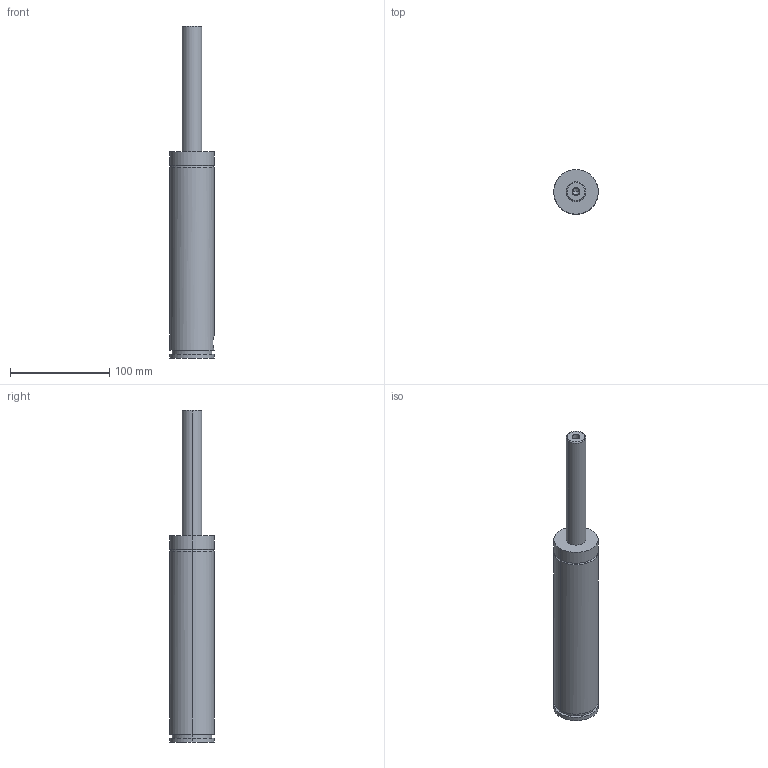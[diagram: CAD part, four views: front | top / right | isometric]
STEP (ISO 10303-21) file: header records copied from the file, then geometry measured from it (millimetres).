
FILE_DESCRIPTION(/* description */ (''),/* implementation_level */ '2;1');
FILE_NAME(/* name */ '3d_gse45-125_03884_r00.stp',/* time_stamp */ '2011-01-10T14:15:19+09:00',/* author */ ('MISUMI'),/* organization */ (''),/* preprocessor_version */ 'ST-DEVELOPER v11',/* originating_system */ 'UGS - NX 5.0',/* authorisation */ '');
FILE_SCHEMA (('CONFIG_CONTROL_DESIGN'));
Length unit declared in the file: millimetre
Products named in the file (1): 3d_gse45-125_03884_r00
Bounding box: 45 x 45 x 335 mm (x, y, z)
Volume: 366515.9 mm3; surface area: 42662.2 mm2
Topology: 1 solids, 1 shells, 57 faces, 122 edges, 77 vertices
Faces by surface type: cylinder 26, plane 21, cone 6, torus 4
Entity records: 1648 total; most frequent: DIRECTION 296, CARTESIAN_POINT 279, ORIENTED_EDGE 240, AXIS2_PLACEMENT_3D 122, EDGE_CURVE 120, VERTEX_POINT 77, EDGE_LOOP 69, CIRCLE 64
